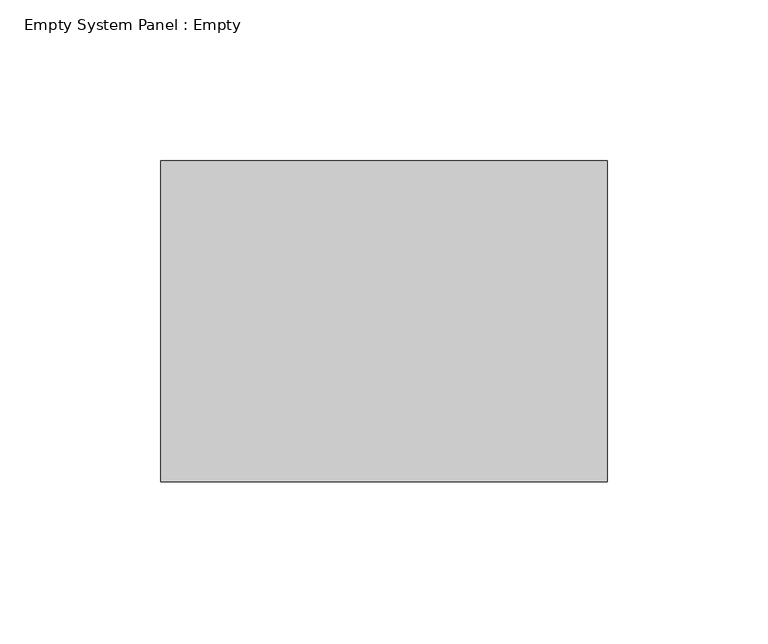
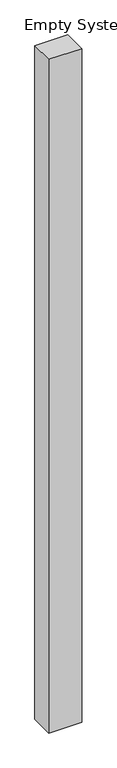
"""IFC4 building model written with IfcOpenShell, lengths in millimetres: plate geometry, Empty System Panel : Empty."""

from ifc_helpers import new_model, si_unit, origin, origin_with_axes, place, context, project, spatial, polyline, outline, extrude, source, transform, mapped, element, save


def empty_system_panel_empty_e311c30d(model_context):
    return source(origin(), model_context, "Body", "SweptSolid", [
        extrude(outline(polyline([(69.5939023, 50.0), (-69.5939023, 50.0), (-69.5939023, 150.0), (69.5939023, 150.0), (69.5939023, 50.0)])), origin_with_axes(), (0.0, 0.0, 1.0), 3000.0),
    ])


if __name__ == "__main__":
    model = new_model("IFC4")
    model_context = context("Model", 3, world=origin())
    ifc_project = project(units=[si_unit("LENGTHUNIT", "METRE", prefix="MILLI")], contexts=[model_context])
    site = spatial("IfcSite", under=ifc_project)
    building = spatial("IfcBuilding", under=site)
    placement = place(None, origin())
    empty_system_panel_empty_shape = empty_system_panel_empty_e311c30d(model_context)
    element("IfcPlate", 1, ObjectType="Empty System Panel : Empty", at=placement, inside=building, context=model_context, shape_type="MappedRepresentation", body=[
        mapped(empty_system_panel_empty_shape, transform((0.0, 0.0, 0.0), x_axis=(1.0, 0.0, 0.0), y_axis=(0.0, 1.0, 0.0), z_axis=(0.0, 0.0, 1.0))),
    ])
    save(model, "model.ifc")
